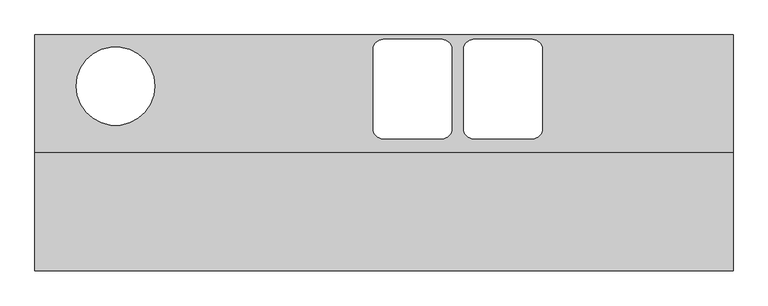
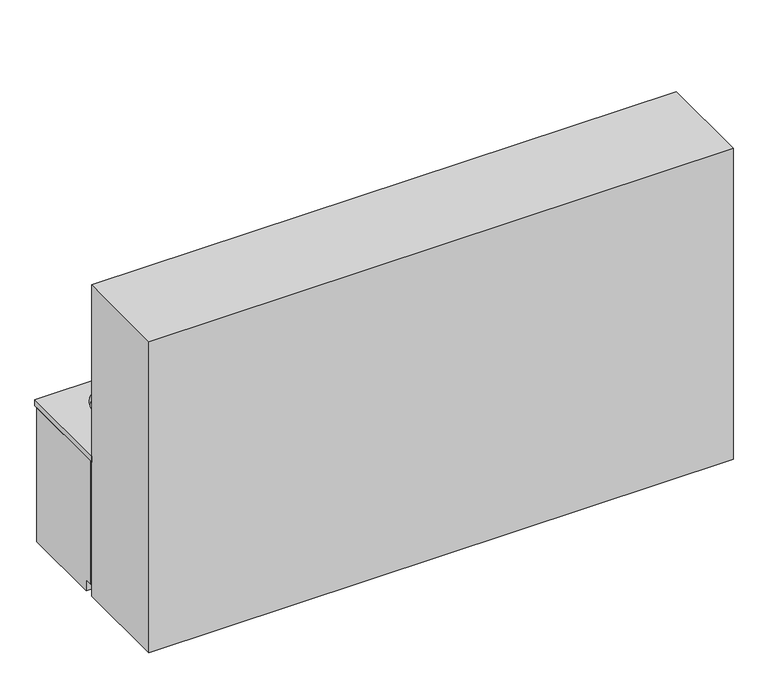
"""IFC4 building model written with IfcOpenShell, lengths in millimetres: proxy geometry, BIMHealth-Worktop_Endoscope-LOD2A-v1 : BIMHealth-Worktop_Endoscope-LOD2A-v1."""

from ifc_helpers import new_model, si_unit, point, frame, origin, origin_with_axes, place, context, project, spatial, polyline, circle_curve, ellipse_curve, trimmed, outline, extrude, faceted_brep, source, transform, mapped, element, save
from ifc_brep_helpers import plane_surface, revolved_surface, extruded_surface, advanced_brep


def generic_models_08ebdc04(model_context):
    return source(origin(), model_context, "Body", "SolidModel", [
        extrude(outline(polyline([(3550.0, -600.0), (3550.0, -1200.0), (0.0, -1200.0), (0.0, -600.0), (3550.0, -600.0)])), origin_with_axes(), (0.0, 0.0, 1.0), 2000.0),
        faceted_brep([(25.0, -20.0, 860.0), (25.0, -580.0, 860.0), (25.0, -580.0, 80.0), (25.0, -530.0, 80.0), (25.0, -530.0, 0.0), (25.0, -20.0, 0.0), (0.0, -20.0, 860.0), (0.0, -20.0, 0.0), (0.0, -540.0, 0.0), (0.0, -540.0, 70.0), (0.0, -590.0, 70.0), (0.0, -590.0, 860.0), (175.0, -590.0, 860.0), (175.0, -580.0, 860.0), (175.0, -530.0, 0.0), (175.0, -540.0, 0.0), (175.0, -580.0, 80.0), (175.0, -590.0, 70.0), (175.0, -540.0, 70.0), (175.0, -530.0, 80.0)], [[[0, 1, 2, 3, 4, 5]], [[6, 7, 8, 9, 10, 11]], [[1, 0, 6, 11, 12, 13]], [[0, 5, 7, 6]], [[5, 4, 14, 15, 8, 7]], [[16, 13, 12, 17, 18, 15, 14, 19]], [[13, 16, 2, 1]], [[17, 12, 11, 10]], [[18, 17, 10, 9]], [[15, 18, 9, 8]], [[19, 14, 4, 3]], [[16, 19, 3, 2]]]),
        faceted_brep([(3525.0, -20.0, 860.0), (3525.0, -20.0, 0.0), (3525.0, -530.0, 0.0), (3525.0, -530.0, 80.0), (3525.0, -580.0, 80.0), (3525.0, -580.0, 860.0), (3550.0, -20.0, 0.0), (3550.0, -20.0, 860.0), (3550.0, -590.0, 860.0), (3550.0, -590.0, 70.0), (3550.0, -540.0, 70.0), (3550.0, -540.0, 0.0), (3375.0, -540.0, 0.0), (3375.0, -530.0, 0.0), (3375.0, -580.0, 860.0), (3375.0, -590.0, 860.0), (3375.0, -580.0, 80.0), (3375.0, -530.0, 80.0), (3375.0, -540.0, 70.0), (3375.0, -590.0, 70.0)], [[[0, 1, 2, 3, 4, 5]], [[6, 7, 8, 9, 10, 11]], [[7, 6, 1, 0]], [[2, 1, 6, 11, 12, 13]], [[0, 5, 14, 15, 8, 7]], [[16, 17, 13, 12, 18, 19, 15, 14]], [[16, 14, 5, 4]], [[9, 8, 15, 19]], [[10, 9, 19, 18]], [[11, 10, 18, 12]], [[13, 17, 3, 2]], [[17, 16, 4, 3]]]),
        advanced_brep(
        [(3550.0, 0.0, 900.0), (0.0, 0.0, 900.0), (0.0, -600.0, 900.0), (3550.0, -600.0, 900.0), (2530.0, -23.0760451, 900.0), (2580.0, -73.0760451, 900.0), (2580.0, -477.5, 900.0), (2530.0, -527.5, 900.0), (2230.0, -527.5, 900.0), (2180.0, -477.5, 900.0), (2180.0, -73.0760451, 900.0), (2230.0, -23.0760451, 900.0), (2070.0, -23.0760451, 900.0), (2120.0, -73.0760451, 900.0), (2120.0, -477.5, 900.0), (2070.0, -527.5, 900.0), (1770.0, -527.5, 900.0), (1720.0, -477.5, 900.0), (1720.0, -73.0760451, 900.0), (1770.0, -23.0760451, 900.0), (610.0, -260.0, 900.0), (210.0, -260.0, 900.0), (3550.0, 0.0, 860.0), (3550.0, -600.0, 860.0), (0.0, -600.0, 860.0), (0.0, 0.0, 860.0), (2580.0, -73.0760451, 860.0), (2530.0, -23.0760451, 860.0), (2230.0, -23.0760451, 860.0), (2180.0, -73.0760451, 860.0), (2180.0, -477.5, 860.0), (2230.0, -527.5, 860.0), (2530.0, -527.5, 860.0), (2580.0, -477.5, 860.0), (2120.0, -73.0760451, 860.0), (2070.0, -23.0760451, 860.0), (1770.0, -23.0760451, 860.0), (1720.0, -73.0760451, 860.0), (1720.0, -477.5, 860.0), (1770.0, -527.5, 860.0), (2070.0, -527.5, 860.0), (2120.0, -477.5, 860.0), (210.0, -260.0, 860.0), (610.0, -260.0, 860.0)],
        [
            (0, 1),
            (1, 2),
            (2, 3),
            (3, 0),
            (4, 5, circle_curve(frame((2530.0, -73.0760451, 900.0), z_axis=(0.0, 0.0, -1.0), x_axis=(0.0, -1.0, 0.0)), 50.0)),
            (5, 6),
            (6, 7, circle_curve(frame((2530.0, -477.5, 900.0), z_axis=(0.0, 0.0, -1.0), x_axis=(0.0, -1.0, 0.0)), 50.0)),
            (7, 8),
            (8, 9, circle_curve(frame((2230.0, -477.5, 900.0), z_axis=(0.0, 0.0, -1.0), x_axis=(0.0, -1.0, 0.0)), 50.0)),
            (9, 10),
            (10, 11, circle_curve(frame((2230.0, -73.0760451, 900.0), z_axis=(0.0, 0.0, -1.0), x_axis=(0.0, -1.0, 0.0)), 50.0)),
            (11, 4),
            (12, 13, circle_curve(frame((2070.0, -73.0760451, 900.0), z_axis=(0.0, 0.0, -1.0), x_axis=(0.0, -1.0, 0.0)), 50.0)),
            (13, 14),
            (14, 15, circle_curve(frame((2070.0, -477.5, 900.0), z_axis=(0.0, 0.0, -1.0), x_axis=(0.0, -1.0, 0.0)), 50.0)),
            (15, 16),
            (16, 17, circle_curve(frame((1770.0, -477.5, 900.0), z_axis=(0.0, 0.0, -1.0), x_axis=(0.0, -1.0, 0.0)), 50.0)),
            (17, 18),
            (18, 19, circle_curve(frame((1770.0, -73.0760451, 900.0), z_axis=(0.0, 0.0, -1.0), x_axis=(0.0, -1.0, 0.0)), 50.0)),
            (19, 12),
            (20, 21, ellipse_curve(frame((410.0, -260.0, 900.0), z_axis=(0.0, 0.0, -1.0), x_axis=(-1.0, 0.0, 0.0)), 200.0, 200.0)),
            (21, 20, ellipse_curve(frame((410.0, -260.0, 900.0), z_axis=(0.0, 0.0, -1.0), x_axis=(-1.0, 0.0, 0.0)), 200.0, 200.0)),
            (22, 23),
            (23, 24),
            (24, 25),
            (25, 22),
            (26, 27, circle_curve(frame((2530.0, -73.0760451, 860.0), z_axis=(0.0, 0.0, 1.0), x_axis=(0.0, -1.0, 0.0)), 50.0)),
            (27, 28),
            (28, 29, circle_curve(frame((2230.0, -73.0760451, 860.0), z_axis=(0.0, 0.0, 1.0), x_axis=(0.0, -1.0, 0.0)), 50.0)),
            (29, 30),
            (30, 31, circle_curve(frame((2230.0, -477.5, 860.0), z_axis=(0.0, 0.0, 1.0), x_axis=(0.0, -1.0, 0.0)), 50.0)),
            (31, 32),
            (32, 33, circle_curve(frame((2530.0, -477.5, 860.0), z_axis=(0.0, 0.0, 1.0), x_axis=(0.0, -1.0, 0.0)), 50.0)),
            (33, 26),
            (34, 35, circle_curve(frame((2070.0, -73.0760451, 860.0), z_axis=(0.0, 0.0, 1.0), x_axis=(0.0, -1.0, 0.0)), 50.0)),
            (35, 36),
            (36, 37, circle_curve(frame((1770.0, -73.0760451, 860.0), z_axis=(0.0, 0.0, 1.0), x_axis=(0.0, -1.0, 0.0)), 50.0)),
            (37, 38),
            (38, 39, circle_curve(frame((1770.0, -477.5, 860.0), z_axis=(0.0, 0.0, 1.0), x_axis=(0.0, -1.0, 0.0)), 50.0)),
            (39, 40),
            (40, 41, circle_curve(frame((2070.0, -477.5, 860.0), z_axis=(0.0, 0.0, 1.0), x_axis=(0.0, -1.0, 0.0)), 50.0)),
            (41, 34),
            (42, 43, circle_curve(frame((410.0, -260.0, 860.0), z_axis=(0.0, 0.0, 1.0), x_axis=(-1.0, 0.0, 0.0)), 200.0)),
            (43, 42, circle_curve(frame((410.0, -260.0, 860.0), z_axis=(0.0, 0.0, 1.0), x_axis=(-1.0, 0.0, 0.0)), 200.0)),
            (0, 22),
            (25, 1),
            (24, 2),
            (23, 3),
            (4, 27),
            (26, 5),
            (33, 6),
            (32, 7),
            (31, 8),
            (30, 9),
            (29, 10),
            (28, 11),
            (12, 35),
            (34, 13),
            (41, 14),
            (40, 15),
            (39, 16),
            (38, 17),
            (37, 18),
            (36, 19),
            (42, 21),
            (20, 43),
        ],
        [
            plane_surface(frame((0.0, 0.0, 900.0), z_axis=(0.0, 0.0, 1.0), x_axis=(-1.0, 0.0, 0.0))),
            plane_surface(frame((0.0, 0.0, 860.0), z_axis=(0.0, 0.0, -1.0), x_axis=(1.0, 0.0, 0.0))),
            plane_surface(frame((3550.0, 0.0, 900.0), z_axis=(0.0, 1.0, 0.0), x_axis=(0.0, 0.0, -1.0))),
            plane_surface(frame((0.0, 0.0, 900.0), z_axis=(-1.0, 0.0, 0.0), x_axis=(0.0, 0.0, -1.0))),
            plane_surface(frame((0.0, -600.0, 900.0), z_axis=(0.0, -1.0, 0.0), x_axis=(0.0, 0.0, -1.0))),
            plane_surface(frame((3550.0, -600.0, 900.0), z_axis=(1.0, 0.0, 0.0), x_axis=(0.0, 0.0, -1.0))),
            revolved_surface(polyline([(2530.0, -123.0760451, 860.0), (2530.0, -123.0760451, 900.0)]), (2530.0, -73.0760451, 900.0), (0.0, 0.0, -1.0)),
            plane_surface(frame((2580.0, -73.0760451, 600.0), z_axis=(-1.0, 0.0, 0.0), x_axis=(0.0, 0.0, 1.0))),
            revolved_surface(polyline([(2530.0, -527.5, 860.0), (2530.0, -527.5, 900.0)]), (2530.0, -477.5, 900.0), (0.0, 0.0, -1.0)),
            plane_surface(frame((2530.0, -527.5, 600.0), z_axis=(0.0, 1.0, 0.0), x_axis=(0.0, 0.0, 1.0))),
            revolved_surface(polyline([(2230.0, -527.5, 860.0), (2230.0, -527.5, 900.0)]), (2230.0, -477.5, 900.0), (0.0, 0.0, -1.0)),
            plane_surface(frame((2180.0, -477.5, 600.0), z_axis=(1.0, 0.0, 0.0), x_axis=(0.0, 0.0, 1.0))),
            revolved_surface(polyline([(2230.0, -123.0760451, 860.0), (2230.0, -123.0760451, 900.0)]), (2230.0, -73.0760451, 900.0), (0.0, 0.0, -1.0)),
            plane_surface(frame((2230.0, -23.0760451, 600.0), z_axis=(0.0, -1.0, 0.0), x_axis=(0.0, 0.0, 1.0))),
            revolved_surface(polyline([(2070.0, -123.0760451, 860.0), (2070.0, -123.0760451, 900.0)]), (2070.0, -73.0760451, 900.0), (0.0, 0.0, -1.0)),
            plane_surface(frame((2120.0, -73.0760451, 700.0), z_axis=(-1.0, 0.0, 0.0), x_axis=(0.0, 0.0, 1.0))),
            revolved_surface(polyline([(2070.0, -527.5, 860.0), (2070.0, -527.5, 900.0)]), (2070.0, -477.5, 900.0), (0.0, 0.0, -1.0)),
            plane_surface(frame((2070.0, -527.5, 700.0), z_axis=(0.0, 1.0, 0.0), x_axis=(0.0, 0.0, 1.0))),
            revolved_surface(polyline([(1770.0, -527.5, 860.0), (1770.0, -527.5, 900.0)]), (1770.0, -477.5, 900.0), (0.0, 0.0, -1.0)),
            plane_surface(frame((1720.0, -477.5, 700.0), z_axis=(1.0, 0.0, 0.0), x_axis=(0.0, 0.0, 1.0))),
            revolved_surface(polyline([(1770.0, -123.0760451, 860.0), (1770.0, -123.0760451, 900.0)]), (1770.0, -73.0760451, 900.0), (0.0, 0.0, -1.0)),
            plane_surface(frame((1770.0, -23.0760451, 700.0), z_axis=(0.0, -1.0, 0.0), x_axis=(0.0, 0.0, 1.0))),
            extruded_surface(trimmed(ellipse_curve(frame((410.0, -260.0, 900.0), z_axis=(0.0, 0.0, -1.0), x_axis=(-1.0, 0.0, 0.0)), 200.0, 200.0), [point((610.0, -260.0, 900.0))], [point((210.0, -260.0, 900.0))], True, "CARTESIAN"), (0.0, 0.0, 40.0), 40.0),
            extruded_surface(trimmed(ellipse_curve(frame((410.0, -260.0, 900.0), z_axis=(0.0, 0.0, -1.0), x_axis=(-1.0, 0.0, 0.0)), 200.0, 200.0), [point((210.0, -260.0, 900.0))], [point((610.0, -260.0, 900.0))], True, "CARTESIAN"), (0.0, 0.0, 40.0), 40.0),
        ],
        [
            (0, [[1, 2, 3, 4], [5, 6, 7, 8, 9, 10, 11, 12], [13, 14, 15, 16, 17, 18, 19, 20], [21, 22]]),
            (1, [[23, 24, 25, 26], [27, 28, 29, 30, 31, 32, 33, 34], [35, 36, 37, 38, 39, 40, 41, 42], [43, 44]]),
            (2, [[-1, 45, -26, 46]]),
            (3, [[-2, -46, -25, 47]]),
            (4, [[-3, -47, -24, 48]]),
            (5, [[-4, -48, -23, -45]]),
            (6, [[49, -27, 50, -5]]),
            (7, [[-50, -34, 51, -6]]),
            (8, [[-51, -33, 52, -7]]),
            (9, [[-52, -32, 53, -8]]),
            (10, [[-53, -31, 54, -9]]),
            (11, [[-54, -30, 55, -10]]),
            (12, [[-55, -29, 56, -11]]),
            (13, [[-49, -12, -56, -28]]),
            (14, [[57, -35, 58, -13]]),
            (15, [[-58, -42, 59, -14]]),
            (16, [[-59, -41, 60, -15]]),
            (17, [[-60, -40, 61, -16]]),
            (18, [[-61, -39, 62, -17]]),
            (19, [[-62, -38, 63, -18]]),
            (20, [[-63, -37, 64, -19]]),
            (21, [[-57, -20, -64, -36]]),
            (22, [[65, -21, 66, -43]]),
            (23, [[-65, -44, -66, -22]]),
        ],
    ),
    ])


if __name__ == "__main__":
    model = new_model("IFC4")
    model_context = context("Model", 3, world=origin())
    ifc_project = project(units=[si_unit("LENGTHUNIT", "METRE", prefix="MILLI")], contexts=[model_context])
    site = spatial("IfcSite", under=ifc_project)
    building = spatial("IfcBuilding", under=site)
    placement = place(None, origin())
    generic_models_shape = generic_models_08ebdc04(model_context)
    element("IfcBuildingElementProxy", 1, Name="BIMHealth-Worktop_Endoscope-LOD2A-v1 : BIMHealth-Worktop_Endoscope-LOD2A-v1", ObjectType="BIMHealth-Worktop_Endoscope-LOD2A-v1 : BIMHealth-Worktop_Endoscope-LOD2A-v1", at=placement, inside=building, context=model_context, shape_type="MappedRepresentation", body=[
        mapped(generic_models_shape, transform((0.0, 0.0, 0.0), x_axis=(1.0, 0.0, 0.0), y_axis=(0.0, 1.0, 0.0), z_axis=(0.0, 0.0, 1.0))),
    ])
    save(model, "model.ifc")
